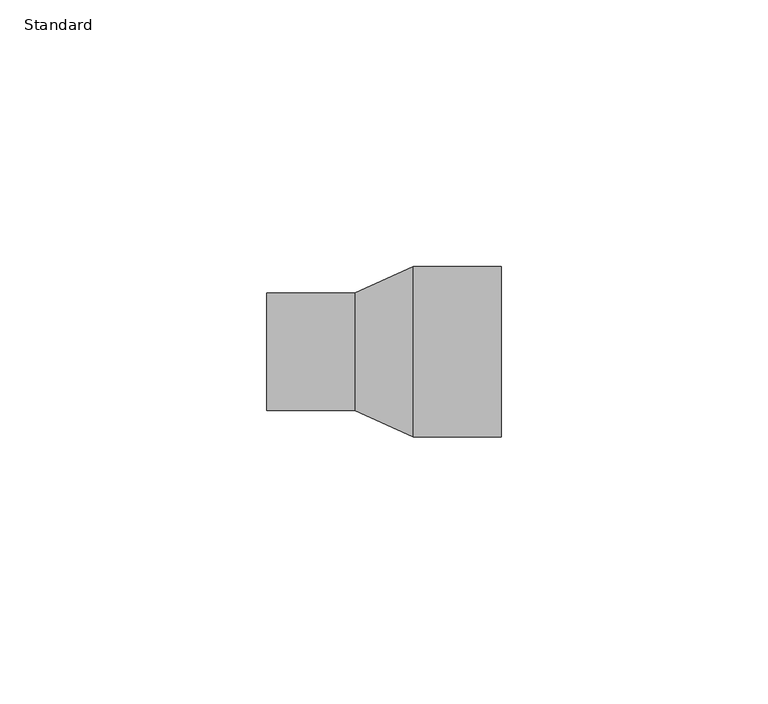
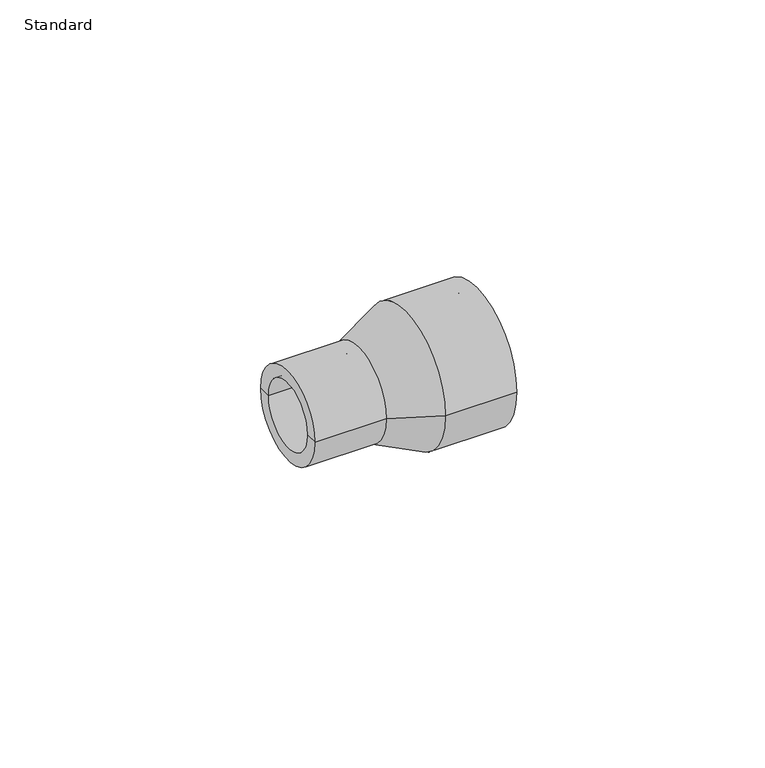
"""IFC4 building model written with IfcOpenShell, lengths in millimetres: pipe fitting geometry, Durapipe_PipeFitting_PVC_Reducers : Standard."""

from ifc_helpers import new_model, si_unit, frame, origin, place, context, project, spatial, polyline, circle_curve, source, transform, mapped, element, save
from ifc_brep_helpers import plane_surface, cylinder_surface, revolved_surface, advanced_brep


def standard_448b8371(model_context):
    return source(origin(), model_context, "Body", "AdvancedBrep", [
        advanced_brep(
        [(-22.0, -11.0, 0.0), (-22.0, 11.0, 0.0), (-5.5, 11.0, 0.0), (-5.5, -11.0, 0.0), (-22.0, -8.0, 0.0), (-22.0, 8.0, 0.0), (22.0, -16.0, 0.0), (22.0, 16.0, 0.0), (22.0, 12.5, 0.0), (22.0, -12.5, 0.0), (5.5, -16.0, 0.0), (5.5, 16.0, 0.0), (-5.5, -8.0, 0.0), (-5.5, 8.0, 0.0), (-5.5, 0.0, 0.0), (5.5, -12.5, 0.0), (5.5, 12.5, 0.0), (5.5, 0.0, 0.0)],
        [
            (0, 1, circle_curve(frame((-22.0, 0.0, 0.0), z_axis=(1.0, 0.0, 0.0), x_axis=(0.0, 1.0, 0.0)), 11.0)),
            (1, 2),
            (2, 3, circle_curve(frame((-5.5, 0.0, 0.0), z_axis=(-1.0, 0.0, 0.0), x_axis=(0.0, 1.0, 0.0)), 11.0)),
            (3, 0),
            (1, 0, circle_curve(frame((-22.0, 0.0, 0.0), z_axis=(1.0, 0.0, 0.0), x_axis=(0.0, 1.0, 0.0)), 11.0)),
            (3, 2, circle_curve(frame((-5.5, 0.0, 0.0), z_axis=(-1.0, 0.0, 0.0), x_axis=(0.0, 1.0, 0.0)), 11.0)),
            (4, 5, circle_curve(frame((-22.0, 0.0, 0.0), z_axis=(1.0, 0.0, 0.0), x_axis=(0.0, 1.0, 0.0)), 8.0)),
            (5, 1),
            (0, 4),
            (5, 4, circle_curve(frame((-22.0, 0.0, 0.0), z_axis=(1.0, 0.0, 0.0), x_axis=(0.0, 1.0, 0.0)), 8.0)),
            (6, 7, circle_curve(frame((22.0, 0.0, 0.0), z_axis=(1.0, 0.0, 0.0), x_axis=(0.0, 1.0, 0.0)), 16.0)),
            (7, 8),
            (8, 9, circle_curve(frame((22.0, 0.0, 0.0), z_axis=(-1.0, 0.0, 0.0), x_axis=(0.0, 1.0, 0.0)), 12.5)),
            (9, 6),
            (7, 6, circle_curve(frame((22.0, 0.0, 0.0), z_axis=(1.0, 0.0, 0.0), x_axis=(0.0, 1.0, 0.0)), 16.0)),
            (9, 8, circle_curve(frame((22.0, 0.0, 0.0), z_axis=(-1.0, 0.0, 0.0), x_axis=(0.0, 1.0, 0.0)), 12.5)),
            (10, 11, circle_curve(frame((5.5, 0.0, 0.0), z_axis=(1.0, 0.0, 0.0), x_axis=(0.0, 1.0, 0.0)), 16.0)),
            (11, 7),
            (6, 10),
            (11, 10, circle_curve(frame((5.5, 0.0, 0.0), z_axis=(1.0, 0.0, 0.0), x_axis=(0.0, 1.0, 0.0)), 16.0)),
            (2, 11),
            (10, 3),
            (12, 13, circle_curve(frame((-5.5, 0.0, 0.0), z_axis=(1.0, 0.0, 0.0), x_axis=(0.0, 1.0, 0.0)), 8.0)),
            (13, 5),
            (4, 12),
            (13, 12, circle_curve(frame((-5.5, 0.0, 0.0), z_axis=(1.0, 0.0, 0.0), x_axis=(0.0, 1.0, 0.0)), 8.0)),
            (14, 13),
            (12, 14),
            (15, 16, circle_curve(frame((5.5, 0.0, 0.0), z_axis=(1.0, 0.0, 0.0), x_axis=(0.0, 1.0, 0.0)), 12.5)),
            (16, 17),
            (17, 15),
            (16, 15, circle_curve(frame((5.5, 0.0, 0.0), z_axis=(1.0, 0.0, 0.0), x_axis=(0.0, 1.0, 0.0)), 12.5)),
            (8, 16),
            (15, 9),
        ],
        [
            cylinder_surface(frame((-22.0, 0.0, 0.0), z_axis=(-1.0, 0.0, 0.0), x_axis=(0.0, 1.0, 0.0)), 11.0),
            plane_surface(frame((-22.0, 0.0, 0.0), z_axis=(-1.0, 0.0, 0.0), x_axis=(0.0, 1.0, 0.0))),
            plane_surface(frame((22.0, 0.0, 0.0), z_axis=(1.0, 0.0, 0.0), x_axis=(0.0, 1.0, 0.0))),
            cylinder_surface(frame((-22.0, 0.0, 0.0), z_axis=(-1.0, 0.0, 0.0), x_axis=(0.0, 1.0, 0.0)), 16.0),
            revolved_surface(polyline([(5.5, 16.0, 0.0), (-5.5, 11.0, 0.0)]), (-22.0, 0.0, 0.0), (-1.0, 0.0, 0.0)),
            revolved_surface(polyline([(-22.0, 8.0, 0.0), (-5.5, 8.0, 0.0)]), (-22.0, 0.0, 0.0), (-1.0, 0.0, 0.0)),
            plane_surface(frame((-5.5, 0.0, 0.0), z_axis=(-1.0, 0.0, 0.0), x_axis=(0.0, 1.0, 0.0))),
            plane_surface(frame((5.5, 0.0, 0.0), z_axis=(1.0, 0.0, 0.0), x_axis=(0.0, 1.0, 0.0))),
            revolved_surface(polyline([(5.5, 12.5, 0.0), (22.0, 12.5, 0.0)]), (-22.0, 0.0, 0.0), (-1.0, 0.0, 0.0)),
        ],
        [
            (0, [[1, 2, 3, 4]]),
            (0, [[5, -4, 6, -2]]),
            (1, [[7, 8, -1, 9]]),
            (1, [[10, -9, -5, -8]]),
            (2, [[11, 12, 13, 14]]),
            (2, [[15, -14, 16, -12]]),
            (3, [[17, 18, -11, 19]]),
            (3, [[20, -19, -15, -18]]),
            (4, [[-3, 21, -17, 22]]),
            (4, [[-6, -22, -20, -21]]),
            (5, [[23, 24, -7, 25]]),
            (5, [[26, -25, -10, -24]]),
            (6, [[27, -23, 28]]),
            (6, [[-28, -26, -27]]),
            (7, [[29, 30, 31]]),
            (7, [[32, -31, -30]]),
            (8, [[-13, 33, -29, 34]]),
            (8, [[-16, -34, -32, -33]]),
        ],
    ),
    ])


if __name__ == "__main__":
    model = new_model("IFC4")
    model_context = context("Model", 3, world=origin())
    ifc_project = project(units=[si_unit("LENGTHUNIT", "METRE", prefix="MILLI")], contexts=[model_context])
    site = spatial("IfcSite", under=ifc_project)
    building = spatial("IfcBuilding", under=site)
    placement = place(None, origin())
    standard_shape = standard_448b8371(model_context)
    element("IfcPipeFitting", 1, ObjectType="Durapipe_PipeFitting_PVC_Reducers : Standard", at=placement, inside=building, context=model_context, shape_type="MappedRepresentation", body=[
        mapped(standard_shape, transform((0.0, 0.0, 0.0), x_axis=(1.0, 0.0, 0.0), y_axis=(0.0, 1.0, 0.0), z_axis=(0.0, 0.0, 1.0))),
    ])
    save(model, "model.ifc")
